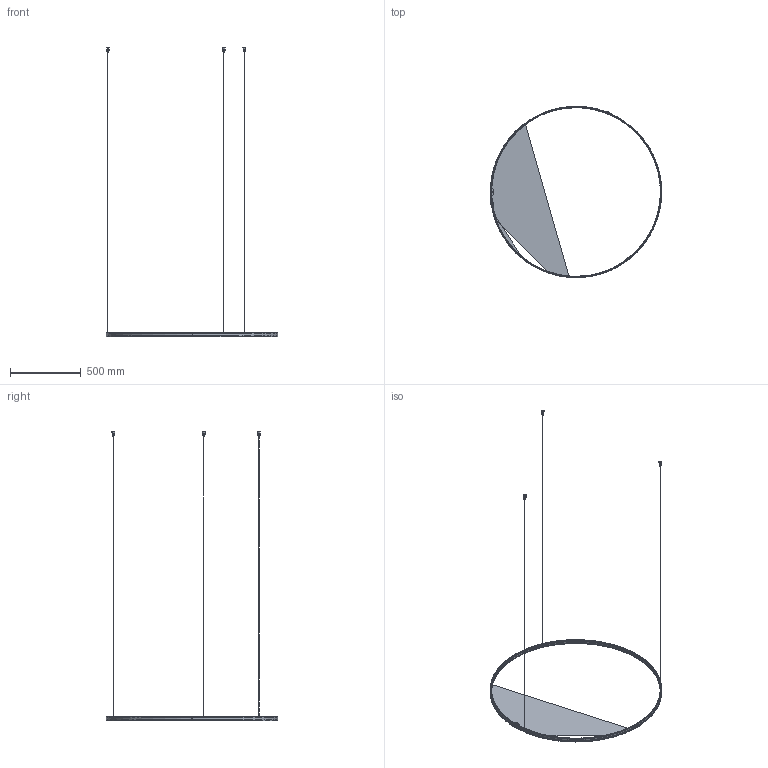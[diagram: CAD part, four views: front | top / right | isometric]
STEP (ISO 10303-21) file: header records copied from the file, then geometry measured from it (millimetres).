
FILE_DESCRIPTION(/* description */ (''),/* implementation_level */ '2;1');
FILE_NAME(/* name */ 'Zero Round M153__.125',/* time_stamp */ '2025-05-29T11:02:54+02:00',/* author */ (''),/* organization */ (''),/* preprocessor_version */ 'ST-DEVELOPER v16.5',/* originating_system */ '',/* authorisation */ '');
FILE_SCHEMA (('AUTOMOTIVE_DESIGN'));
Length unit declared in the file: millimetre
Products named in the file (9): Document; 5402.0001000.00 (fune ACC 19 fili D 1,2mm con cilindro terminale 3x3m
m)_5402.0001200.00; 3300.0298000.00 (manicotto per sospensione singola ALL D 20mm H 32mm 
con foro M10x1)_3302.0298000.00; 5200.0002000.00 (dispositivo regolazione fune OTTONE nichelato con in
nesto maschio M10 L 14mm)_5200.0002000.00; 3300.0320000.00 (profilo curvo Zero Round sospensione ALL 7,7x30mm D 
est. 1215mm)_3306.0320360.00; 3100.0071000.00 (schermo estruso Giplast 09PE79 PC 19x3,8mm per curva
 D int. 1197mm)_3101.0071360.98; 3200.0200002.00 (copertura giunzione con foro M8 ACC 60,2x18,7mm H 23
mm sp 1)_3209.0200002.00; 5401.0016000.00 (molla in nastro sagomata ACC INOX 5x31x5mm sp 0,4)_5
401.0016000.00; 5205.0004007.00 (nipplo D 10mm sp 2 gambo H 7mm M8x1 PC trasparente S
teab 5475-3-07-011)_5205.0004007.00
Assembly tree (14 placements, depth 2):
  Document
    5402.0001000.00 (fune ACC 19 fili D 1,2mm con cilindro terminale 3x3m
m)_5402.0001200.00  x3
    3300.0298000.00 (manicotto per sospensione singola ALL D 20mm H 32mm 
con foro M10x1)_3302.0298000.00  x3
    5200.0002000.00 (dispositivo regolazione fune OTTONE nichelato con in
nesto maschio M10 L 14mm)_5200.0002000.00  x3
    3300.0320000.00 (profilo curvo Zero Round sospensione ALL 7,7x30mm D 
est. 1215mm)_3306.0320360.00
    3100.0071000.00 (schermo estruso Giplast 09PE79 PC 19x3,8mm per curva
 D int. 1197mm)_3101.0071360.98
    3200.0200002.00 (copertura giunzione con foro M8 ACC 60,2x18,7mm H 23
mm sp 1)_3209.0200002.00
    5401.0016000.00 (molla in nastro sagomata ACC INOX 5x31x5mm sp 0,4)_5
401.0016000.00
    5205.0004007.00 (nipplo D 10mm sp 2 gambo H 7mm M8x1 PC trasparente S
teab 5475-3-07-011)_5205.0004007.00
Bounding box: 1215.39 x 1215 x 2055.45 mm (x, y, z)
Volume: 677521.6 mm3; surface area: 554915.2 mm2
Topology: 20 solids, 20 shells, 615 faces, 1498 edges, 927 vertices
Faces by surface type: bspline 472, plane 143
Entity records: 24697 total; most frequent: CARTESIAN_POINT 18538, ORIENTED_EDGE 2068, EDGE_CURVE 1034, VERTEX_POINT 631, B_SPLINE_CURVE_WITH_KNOTS 471, EDGE_LOOP 439, ADVANCED_FACE 421, FACE_OUTER_BOUND 421
